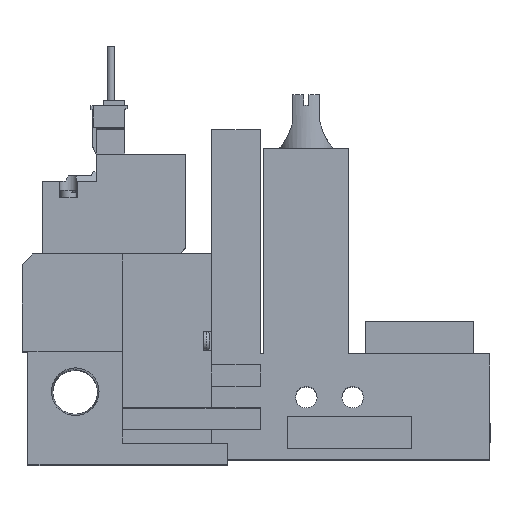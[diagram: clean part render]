
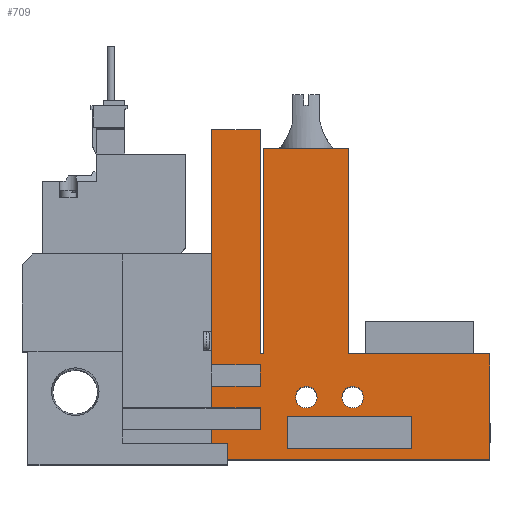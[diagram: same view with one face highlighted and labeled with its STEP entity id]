
A CAD part, top view. The second image highlights one B-rep face of the part: STEP entity #709.
In plain terms, the highlighted planar face has unit normal (0, 0, 1).
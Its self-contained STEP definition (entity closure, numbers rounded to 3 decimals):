
#709=ADVANCED_FACE('',(#1384,#1385,#1386,#1387),#1388,.T.);
#1384=FACE_OUTER_BOUND('',#2338,.T.);
#1385=FACE_BOUND('',#2339,.T.);
#1386=FACE_BOUND('',#2340,.T.);
#1387=FACE_BOUND('',#2341,.T.);
#1388=PLANE('',#2342);
#2338=EDGE_LOOP('',(#4775,#4776,#4777,#4778,#4779,#4780,#4781,#4782,#4783,#4784,#4785,#4786,#4787,#4788,#4789,#4790,#4791,#4792));
#2339=EDGE_LOOP('',(#4793,#4794,#4795,#4796));
#2340=EDGE_LOOP('',(#4797));
#2341=EDGE_LOOP('',(#4798));
#2342=AXIS2_PLACEMENT_3D('',#4799,#4800,#4801);
#4775=ORIENTED_EDGE('',*,*,#6690,.T.);
#4776=ORIENTED_EDGE('',*,*,#6691,.T.);
#4777=ORIENTED_EDGE('',*,*,#6681,.T.);
#4778=ORIENTED_EDGE('',*,*,#6692,.T.);
#4779=ORIENTED_EDGE('',*,*,#6693,.T.);
#4780=ORIENTED_EDGE('',*,*,#6646,.T.);
#4781=ORIENTED_EDGE('',*,*,#6694,.T.);
#4782=ORIENTED_EDGE('',*,*,#6695,.T.);
#4783=ORIENTED_EDGE('',*,*,#6696,.T.);
#4784=ORIENTED_EDGE('',*,*,#6655,.T.);
#4785=ORIENTED_EDGE('',*,*,#6697,.T.);
#4786=ORIENTED_EDGE('',*,*,#6698,.T.);
#4787=ORIENTED_EDGE('',*,*,#6699,.T.);
#4788=ORIENTED_EDGE('',*,*,#6700,.T.);
#4789=ORIENTED_EDGE('',*,*,#6701,.T.);
#4790=ORIENTED_EDGE('',*,*,#6702,.T.);
#4791=ORIENTED_EDGE('',*,*,#6703,.T.);
#4792=ORIENTED_EDGE('',*,*,#6704,.T.);
#4793=ORIENTED_EDGE('',*,*,#6705,.T.);
#4794=ORIENTED_EDGE('',*,*,#6706,.T.);
#4795=ORIENTED_EDGE('',*,*,#6707,.T.);
#4796=ORIENTED_EDGE('',*,*,#6638,.T.);
#4797=ORIENTED_EDGE('',*,*,#6708,.T.);
#4798=ORIENTED_EDGE('',*,*,#6709,.T.);
#4799=CARTESIAN_POINT('',(0.0,0.0,10.0));
#4800=DIRECTION('',(0.0,0.0,1.0));
#4801=DIRECTION('',(1.0,0.0,0.0));
#6638=EDGE_CURVE('',#8060,#8065,#8067,.T.);
#6646=EDGE_CURVE('',#8082,#8083,#8084,.T.);
#6655=EDGE_CURVE('',#8101,#8099,#8102,.T.);
#6681=EDGE_CURVE('',#8142,#8147,#8149,.T.);
#6690=EDGE_CURVE('',#8164,#8165,#8166,.T.);
#6691=EDGE_CURVE('',#8165,#8142,#8167,.T.);
#6692=EDGE_CURVE('',#8147,#8168,#8169,.T.);
#6693=EDGE_CURVE('',#8168,#8082,#8170,.T.);
#6694=EDGE_CURVE('',#8083,#8171,#8172,.T.);
#6695=EDGE_CURVE('',#8171,#8173,#8174,.T.);
#6696=EDGE_CURVE('',#8173,#8101,#8175,.T.);
#6697=EDGE_CURVE('',#8099,#8176,#8177,.T.);
#6698=EDGE_CURVE('',#8176,#8178,#8179,.T.);
#6699=EDGE_CURVE('',#8178,#8180,#8181,.T.);
#6700=EDGE_CURVE('',#8180,#8182,#8183,.T.);
#6701=EDGE_CURVE('',#8182,#8184,#8185,.T.);
#6702=EDGE_CURVE('',#8184,#8186,#8187,.T.);
#6703=EDGE_CURVE('',#8186,#8188,#8189,.T.);
#6704=EDGE_CURVE('',#8188,#8164,#8190,.T.);
#6705=EDGE_CURVE('',#8065,#8191,#8192,.T.);
#6706=EDGE_CURVE('',#8191,#8193,#8194,.T.);
#6707=EDGE_CURVE('',#8193,#8060,#8195,.T.);
#6708=EDGE_CURVE('',#8196,#8196,#8197,.T.);
#6709=EDGE_CURVE('',#8198,#8198,#8199,.T.);
#8060=VERTEX_POINT('',#10359);
#8065=VERTEX_POINT('',#10366);
#8067=LINE('',#10369,#10370);
#8082=VERTEX_POINT('',#10390);
#8083=VERTEX_POINT('',#10391);
#8084=LINE('',#10392,#10393);
#8099=VERTEX_POINT('',#10415);
#8101=VERTEX_POINT('',#10418);
#8102=LINE('',#10419,#10420);
#8142=VERTEX_POINT('',#10482);
#8147=VERTEX_POINT('',#10489);
#8149=LINE('',#10492,#10493);
#8164=VERTEX_POINT('',#10515);
#8165=VERTEX_POINT('',#10516);
#8166=LINE('',#10517,#10518);
#8167=LINE('',#10519,#10520);
#8168=VERTEX_POINT('',#10521);
#8169=LINE('',#10522,#10523);
#8170=LINE('',#10524,#10525);
#8171=VERTEX_POINT('',#10526);
#8172=LINE('',#10527,#10528);
#8173=VERTEX_POINT('',#10529);
#8174=LINE('',#10530,#10531);
#8175=LINE('',#10532,#10533);
#8176=VERTEX_POINT('',#10534);
#8177=LINE('',#10535,#10536);
#8178=VERTEX_POINT('',#10537);
#8179=LINE('',#10538,#10539);
#8180=VERTEX_POINT('',#10540);
#8181=LINE('',#10541,#10542);
#8182=VERTEX_POINT('',#10543);
#8183=LINE('',#10544,#10545);
#8184=VERTEX_POINT('',#10546);
#8185=LINE('',#10547,#10548);
#8186=VERTEX_POINT('',#10549);
#8187=LINE('',#10550,#10551);
#8188=VERTEX_POINT('',#10552);
#8189=LINE('',#10553,#10554);
#8190=LINE('',#10555,#10556);
#8191=VERTEX_POINT('',#10557);
#8192=LINE('',#10558,#10559);
#8193=VERTEX_POINT('',#10560);
#8194=LINE('',#10561,#10562);
#8195=LINE('',#10563,#10564);
#8196=VERTEX_POINT('',#10565);
#8197=CIRCLE('',#10566,2.0);
#8198=VERTEX_POINT('',#10567);
#8199=CIRCLE('',#10568,2.0);
#10359=CARTESIAN_POINT('',(72.1,2.0,10.0));
#10366=CARTESIAN_POINT('',(49.1,2.0,10.0));
#10369=CARTESIAN_POINT('',(0.0,2.0,10.0));
#10370=VECTOR('',#12265,1.0);
#10390=CARTESIAN_POINT('',(35.1,9.5,10.0));
#10391=CARTESIAN_POINT('',(44.1,9.5,10.0));
#10392=CARTESIAN_POINT('',(0.0,9.5,10.0));
#10393=VECTOR('',#12277,1.0);
#10415=CARTESIAN_POINT('',(86.6,0.0,10.0));
#10418=CARTESIAN_POINT('',(35.1,0.0,10.0));
#10419=CARTESIAN_POINT('',(18.6,0.0,10.0));
#10420=VECTOR('',#12286,1.0);
#10482=CARTESIAN_POINT('',(44.1,17.5,10.0));
#10489=CARTESIAN_POINT('',(44.1,13.5,10.0));
#10492=CARTESIAN_POINT('',(44.1,0.0,10.0));
#10493=VECTOR('',#12312,1.0);
#10515=CARTESIAN_POINT('',(35.1,61.0,10.0));
#10516=CARTESIAN_POINT('',(35.1,17.5,10.0));
#10517=CARTESIAN_POINT('',(35.1,61.0,10.0));
#10518=VECTOR('',#12323,1.0);
#10519=CARTESIAN_POINT('',(0.0,17.5,10.0));
#10520=VECTOR('',#12324,1.0);
#10521=CARTESIAN_POINT('',(35.1,13.5,10.0));
#10522=CARTESIAN_POINT('',(0.0,13.5,10.0));
#10523=VECTOR('',#12325,1.0);
#10524=CARTESIAN_POINT('',(35.1,0.0,10.0));
#10525=VECTOR('',#12326,1.0);
#10526=CARTESIAN_POINT('',(44.1,5.5,10.0));
#10527=CARTESIAN_POINT('',(44.1,0.0,10.0));
#10528=VECTOR('',#12327,1.0);
#10529=CARTESIAN_POINT('',(35.1,5.5,10.0));
#10530=CARTESIAN_POINT('',(0.0,5.5,10.0));
#10531=VECTOR('',#12328,1.0);
#10532=CARTESIAN_POINT('',(35.1,0.0,10.0));
#10533=VECTOR('',#12329,1.0);
#10534=CARTESIAN_POINT('',(86.6,19.5,10.0));
#10535=CARTESIAN_POINT('',(86.6,0.0,10.0));
#10536=VECTOR('',#12330,1.0);
#10537=CARTESIAN_POINT('',(60.45,19.5,10.0));
#10538=CARTESIAN_POINT('',(86.6,19.5,10.0));
#10539=VECTOR('',#12331,1.0);
#10540=CARTESIAN_POINT('',(60.45,57.5,10.0));
#10541=CARTESIAN_POINT('',(60.45,19.5,10.0));
#10542=VECTOR('',#12332,1.0);
#10543=CARTESIAN_POINT('',(44.75,57.5,10.0));
#10544=CARTESIAN_POINT('',(60.45,57.5,10.0));
#10545=VECTOR('',#12333,1.0);
#10546=CARTESIAN_POINT('',(44.75,19.5,10.0));
#10547=CARTESIAN_POINT('',(44.75,57.5,10.0));
#10548=VECTOR('',#12334,1.0);
#10549=CARTESIAN_POINT('',(44.1,19.5,10.0));
#10550=CARTESIAN_POINT('',(44.75,19.5,10.0));
#10551=VECTOR('',#12335,1.0);
#10552=CARTESIAN_POINT('',(44.1,61.0,10.0));
#10553=CARTESIAN_POINT('',(44.1,19.5,10.0));
#10554=VECTOR('',#12336,1.0);
#10555=CARTESIAN_POINT('',(44.1,61.0,10.0));
#10556=VECTOR('',#12337,1.0);
#10557=CARTESIAN_POINT('',(49.1,8.0,10.0));
#10558=CARTESIAN_POINT('',(49.1,0.0,10.0));
#10559=VECTOR('',#12338,1.0);
#10560=CARTESIAN_POINT('',(72.1,8.0,10.0));
#10561=CARTESIAN_POINT('',(0.0,8.0,10.0));
#10562=VECTOR('',#12339,1.0);
#10563=CARTESIAN_POINT('',(72.1,0.0,10.0));
#10564=VECTOR('',#12340,1.0);
#10565=CARTESIAN_POINT('',(54.6,11.5,10.0));
#10566=AXIS2_PLACEMENT_3D('',#12341,#12342,#12343);
#10567=CARTESIAN_POINT('',(63.2,11.5,10.0));
#10568=AXIS2_PLACEMENT_3D('',#12344,#12345,#12346);
#12265=DIRECTION('',(-1.0,0.0,0.0));
#12277=DIRECTION('',(1.0,0.0,0.0));
#12286=DIRECTION('',(1.0,0.0,0.0));
#12312=DIRECTION('',(0.0,-1.0,0.0));
#12323=DIRECTION('',(0.0,-1.0,0.0));
#12324=DIRECTION('',(1.0,0.0,0.0));
#12325=DIRECTION('',(-1.0,0.0,0.0));
#12326=DIRECTION('',(0.0,-1.0,0.0));
#12327=DIRECTION('',(0.0,-1.0,0.0));
#12328=DIRECTION('',(-1.0,0.0,0.0));
#12329=DIRECTION('',(0.0,-1.0,0.0));
#12330=DIRECTION('',(0.0,1.0,0.0));
#12331=DIRECTION('',(-1.0,0.0,0.0));
#12332=DIRECTION('',(0.0,1.0,0.0));
#12333=DIRECTION('',(-1.0,0.0,0.0));
#12334=DIRECTION('',(0.0,-1.0,0.0));
#12335=DIRECTION('',(-1.0,0.0,0.0));
#12336=DIRECTION('',(0.0,1.0,0.0));
#12337=DIRECTION('',(-1.0,0.0,0.0));
#12338=DIRECTION('',(0.0,1.0,0.0));
#12339=DIRECTION('',(1.0,0.0,0.0));
#12340=DIRECTION('',(0.0,-1.0,0.0));
#12341=CARTESIAN_POINT('',(52.6,11.5,10.0));
#12342=DIRECTION('',(0.0,0.0,-1.0));
#12343=DIRECTION('',(1.0,0.0,0.0));
#12344=CARTESIAN_POINT('',(61.2,11.5,10.0));
#12345=DIRECTION('',(0.0,0.0,-1.0));
#12346=DIRECTION('',(1.0,0.0,0.0));
